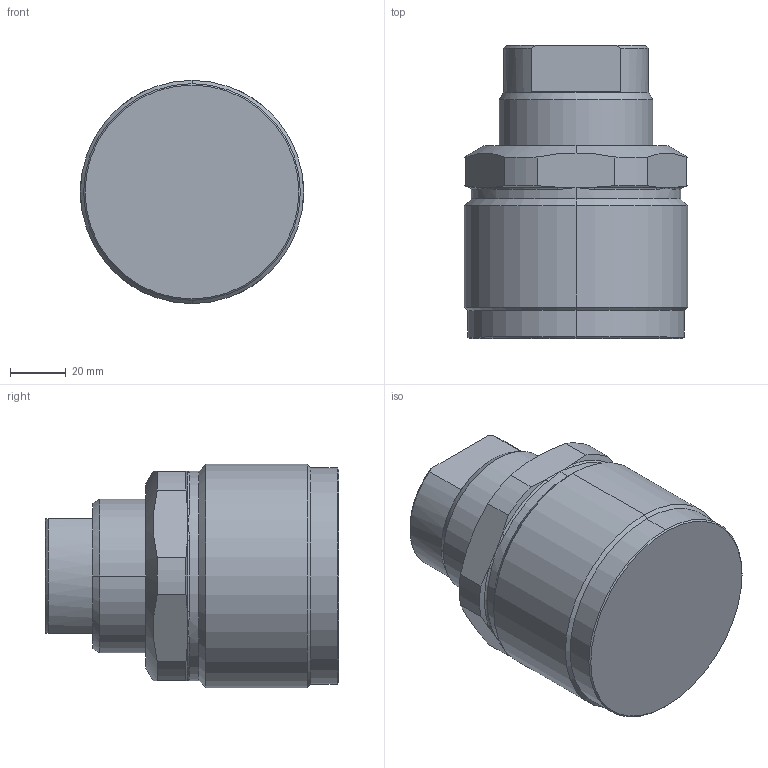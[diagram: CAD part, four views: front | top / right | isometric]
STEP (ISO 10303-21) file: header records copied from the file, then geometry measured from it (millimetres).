
FILE_DESCRIPTION((' '),'2;1');
FILE_NAME( 'TGM60-16.x_t.stp', '2024-08-27T13:43:53', (' '), ('--- Datakit www.datakit.com---'), ' Datakit CrossCadWare V2024.1 Dec 21 2023', 'Mastercam 2025', ' ');
FILE_SCHEMA(('AUTOMOTIVE_DESIGN { 1 0 10303 214 1 1 1 1 }'));
Length unit declared in the file: millimetre
Products named in the file (1): TGM60-16
Bounding box: 80 x 105 x 80 mm (x, y, z)
Volume: 363004.2 mm3; surface area: 41696.2 mm2
Topology: 2 solids, 2 shells, 81 faces, 200 edges, 113 vertices
Faces by surface type: cylinder 24, cone 22, plane 17, bspline 12, torus 6
Entity records: 4237 total; most frequent: CARTESIAN_POINT 2461, ORIENTED_EDGE 372, DIRECTION 350, EDGE_CURVE 186, AXIS2_PLACEMENT_3D 150, VERTEX_POINT 113, EDGE_LOOP 85, FACE_OUTER_BOUND 81
